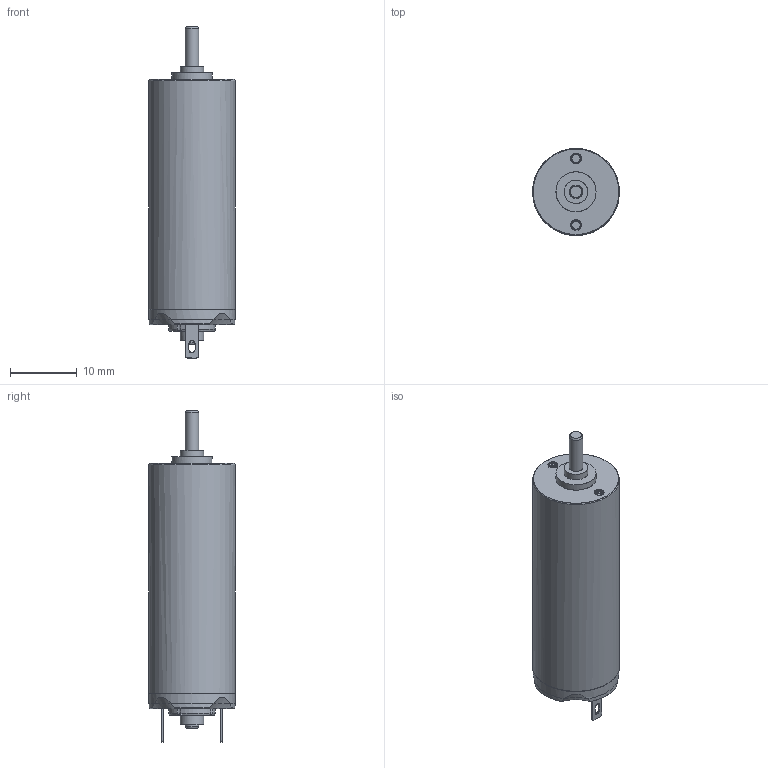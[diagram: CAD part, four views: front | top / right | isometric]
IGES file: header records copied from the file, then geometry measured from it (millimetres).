
Global section: file name: D:\Daten-Huge\PLM_Export\Huellen_aufbr\20120404_fuer_Vertrieb\1336_CXR..igs; native system: NX V7.5; preprocessor: SIEMENS PLM Software NX 7.5; author: DR. FRITZ FAULHABER GmbH & Co. KG; organization: DR. FRITZ FAULHABER GmbH & Co. KG; date: 20120404.104625; units: millimetre
Bounding box: 13 x 13 x 49.7 mm (x, y, z)
Surface area: 2002.1 mm2 (no closed solid volume)
Topology: 0 solids, 0 shells, 121 faces, 753 edges, 736 vertices
Faces by surface type: bspline 121
